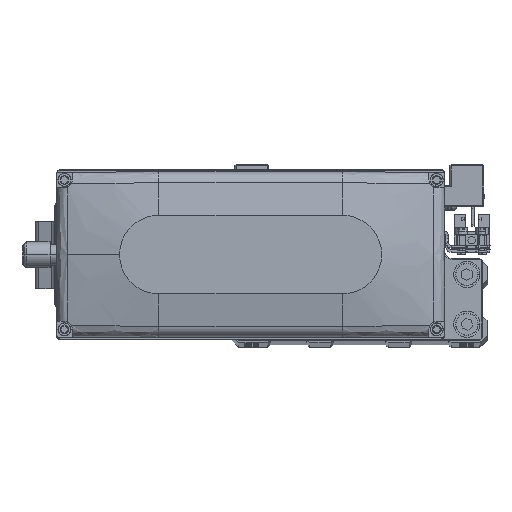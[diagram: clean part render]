
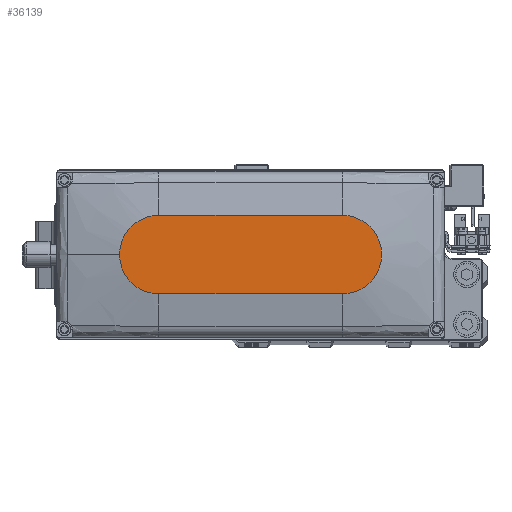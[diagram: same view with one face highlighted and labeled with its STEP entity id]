
A CAD part, top view. The second image highlights one B-rep face of the part: STEP entity #36139.
In plain terms, the highlighted planar face has unit normal (0, 0, 1).
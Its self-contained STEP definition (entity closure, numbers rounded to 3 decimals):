
#761 = LINE ( 'NONE', #14331, #14790 ) ;
#3324 = ORIENTED_EDGE ( 'NONE', *, *, #23839, .T. ) ;
#3776 = EDGE_CURVE ( 'NONE', #29129, #15882, #23525, .T. ) ;
#4253 = CARTESIAN_POINT ( 'NONE',  ( 50., 0., 35. ) ) ;
#4441 = CARTESIAN_POINT ( 'NONE',  ( -35., 15., 35. ) ) ;
#6155 = DIRECTION ( 'NONE',  ( 0., 0., 1. ) ) ;
#6397 = VECTOR ( 'NONE', #6611, 1000. ) ;
#6611 = DIRECTION ( 'NONE',  ( 1., 0., 0. ) ) ;
#7925 = EDGE_CURVE ( 'NONE', #25841, #18740, #761, .T. ) ;
#8100 = AXIS2_PLACEMENT_3D ( 'NONE', #16060, #29676, #43309 ) ;
#8427 = CARTESIAN_POINT ( 'NONE',  ( 0., 0., 35. ) ) ;
#9034 = DIRECTION ( 'NONE',  ( 0., 0., 1. ) ) ;
#10730 = EDGE_CURVE ( 'NONE', #40972, #25841, #14441, .T. ) ;
#11081 = CARTESIAN_POINT ( 'NONE',  ( 35., -15., 35. ) ) ;
#13838 = ORIENTED_EDGE ( 'NONE', *, *, #27271, .T. ) ;
#14331 = CARTESIAN_POINT ( 'NONE',  ( -35., 15., 35. ) ) ;
#14441 = CIRCLE ( 'NONE', #39396, 15. ) ;
#14790 = VECTOR ( 'NONE', #27933, 1000. ) ;
#15882 = VERTEX_POINT ( 'NONE', #11081 ) ;
#16060 = CARTESIAN_POINT ( 'NONE',  ( -35., 0., 35. ) ) ;
#17015 = ORIENTED_EDGE ( 'NONE', *, *, #10730, .T. ) ;
#17771 = CARTESIAN_POINT ( 'NONE',  ( -35., -15., 35. ) ) ;
#18740 = VERTEX_POINT ( 'NONE', #4441 ) ;
#19728 = DIRECTION ( 'NONE',  ( 1., 0., 0. ) ) ;
#20933 = ORIENTED_EDGE ( 'NONE', *, *, #7925, .T. ) ;
#22015 = DIRECTION ( 'NONE',  ( 0., 0., 1. ) ) ;
#22613 = DIRECTION ( 'NONE',  ( 1., 0., 0. ) ) ;
#23525 = LINE ( 'NONE', #37167, #6397 ) ;
#23839 = EDGE_CURVE ( 'NONE', #15882, #40972, #32901, .T. ) ;
#25211 = CARTESIAN_POINT ( 'NONE',  ( 35., 15., 35. ) ) ;
#25372 = FACE_OUTER_BOUND ( 'NONE', #30957, .T. ) ;
#25841 = VERTEX_POINT ( 'NONE', #25211 ) ;
#27271 = EDGE_CURVE ( 'NONE', #18740, #29129, #27323, .T. ) ;
#27323 = CIRCLE ( 'NONE', #8100, 15. ) ;
#27933 = DIRECTION ( 'NONE',  ( -1., 0., 0. ) ) ;
#29129 = VERTEX_POINT ( 'NONE', #17771 ) ;
#29676 = DIRECTION ( 'NONE',  ( 0., 0., 1. ) ) ;
#30957 = EDGE_LOOP ( 'NONE', ( #20933, #13838, #30967, #3324, #17015 ) ) ;
#30967 = ORIENTED_EDGE ( 'NONE', *, *, #3776, .T. ) ;
#32901 = CIRCLE ( 'NONE', #38602, 15. ) ;
#33405 = AXIS2_PLACEMENT_3D ( 'NONE', #8427, #22015, #35638 ) ;
#35638 = DIRECTION ( 'NONE',  ( 1., 0., 0. ) ) ;
#36139 = ADVANCED_FACE ( 'NONE', ( #25372 ), #38988, .T. ) ;
#36703 = CARTESIAN_POINT ( 'NONE',  ( 35., 0., 35. ) ) ;
#37167 = CARTESIAN_POINT ( 'NONE',  ( -35., -15., 35. ) ) ;
#38602 = AXIS2_PLACEMENT_3D ( 'NONE', #39596, #9034, #22613 ) ;
#38988 = PLANE ( 'NONE',  #33405 ) ;
#39396 = AXIS2_PLACEMENT_3D ( 'NONE', #36703, #6155, #19728 ) ;
#39596 = CARTESIAN_POINT ( 'NONE',  ( 35., 0., 35. ) ) ;
#40972 = VERTEX_POINT ( 'NONE', #4253 ) ;
#43309 = DIRECTION ( 'NONE',  ( 1., 0., 0. ) ) ;
